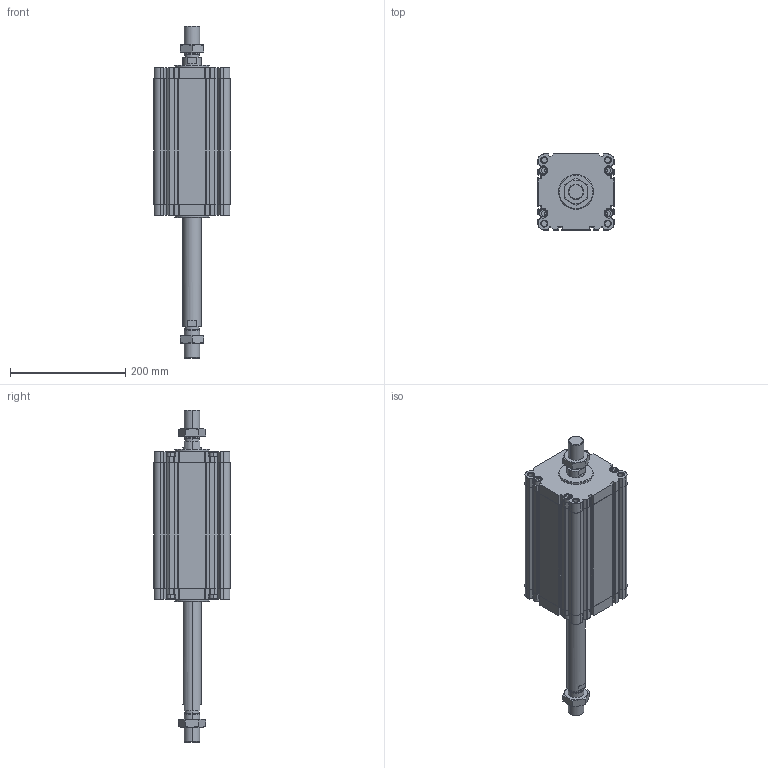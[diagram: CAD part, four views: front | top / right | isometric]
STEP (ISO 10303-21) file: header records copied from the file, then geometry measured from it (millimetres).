
FILE_DESCRIPTION (( 'STEP AP203' ), '1' );
FILE_NAME ('CDVU125-175M-P.STEP', '2020-07-21T16:47:10', ( '' ), ( '' ), 'SwSTEP 2.0', 'SolidWorks 2019', '' );
FILE_SCHEMA (( 'CONFIG_CONTROL_DESIGN' ));
Length unit declared in the file: millimetre
Products named in the file (1): CDVU125-175M-P
Bounding box: 132 x 132 x 575 mm (x, y, z)
Volume: 2566463.3 mm3; surface area: 394339.1 mm2
Topology: 4 solids, 4 shells, 702 faces, 1892 edges, 1230 vertices
Faces by surface type: plane 338, cylinder 280, cone 68, torus 16
Entity records: 22967 total; most frequent: CARTESIAN_POINT 4709, DIRECTION 3930, ORIENTED_EDGE 3776, EDGE_CURVE 1888, AXIS2_PLACEMENT_3D 1363, VERTEX_POINT 1230, VECTOR 1204, LINE 1204
